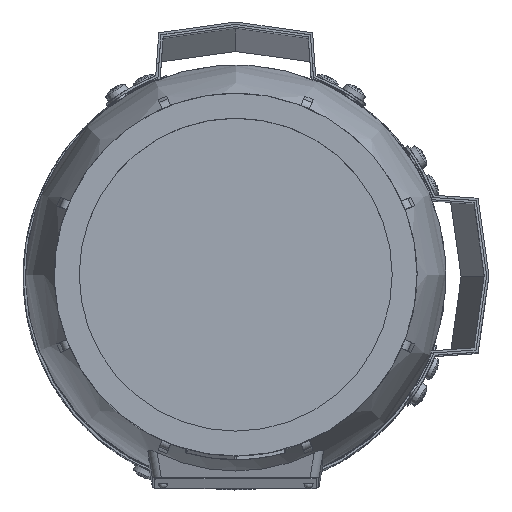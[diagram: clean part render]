
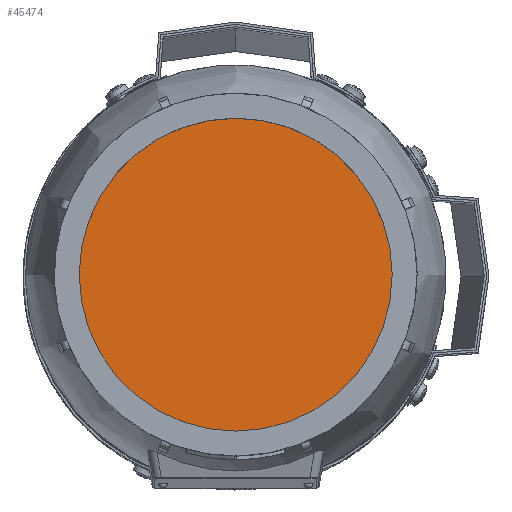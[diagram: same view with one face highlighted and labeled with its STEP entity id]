
A CAD part, top view. The second image highlights one B-rep face of the part: STEP entity #45474.
In plain terms, the highlighted planar face has unit normal (0, 0, 1) as drawn and (0, 1, 0) by its records, which use the part's own axes.
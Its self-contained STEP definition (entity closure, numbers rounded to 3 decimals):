
#9553=ORIENTED_EDGE('',*,*,#23291,.F.);
#23291=EDGE_CURVE('',#30160,#30160,#34787,.T.);
#30160=VERTEX_POINT('',#65631);
#34787=CIRCLE('',#47962,67.736);
#36863=EDGE_LOOP('',(#9553));
#40171=FACE_BOUND('',#36863,.T.);
#43497=PLANE('',#47961);
#45474=ADVANCED_FACE('',(#40171),#43497,.F.);
#47961=AXIS2_PLACEMENT_3D('',#65629,#52456,#52457);
#47962=AXIS2_PLACEMENT_3D('',#65630,#52458,#52459);
#52456=DIRECTION('',(0.,-1.,0.));
#52457=DIRECTION('',(0.,0.,-1.));
#52458=DIRECTION('',(0.,-1.,0.));
#52459=DIRECTION('',(0.,0.,-1.));
#65629=CARTESIAN_POINT('',(0.,154.,0.));
#65630=CARTESIAN_POINT('',(0.,154.,0.));
#65631=CARTESIAN_POINT('',(0.,154.,-67.736));
